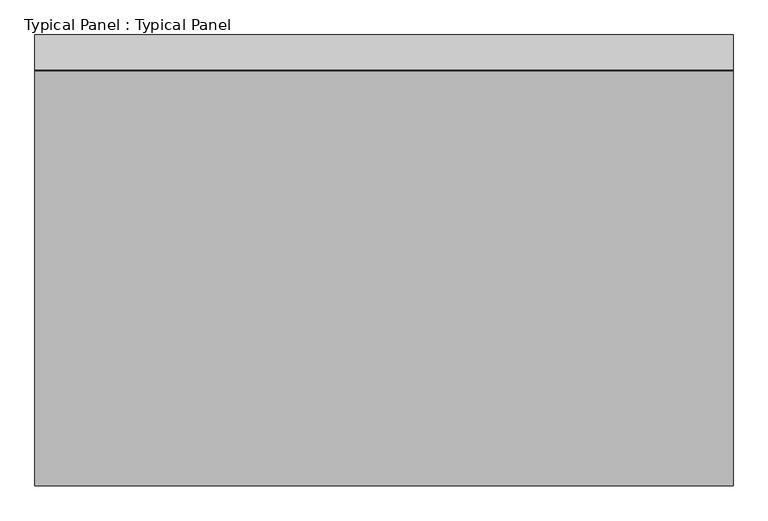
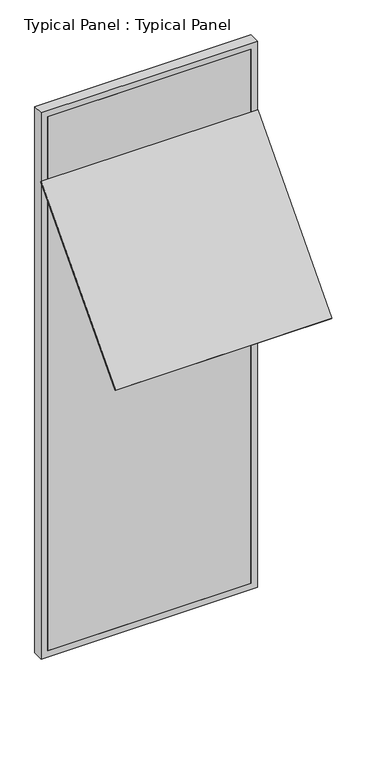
"""IFC4 building model written with IfcOpenShell, lengths in millimetres: plate geometry, Typical Panel : Typical Panel."""

from ifc_helpers import new_model, si_unit, frame, origin, place, context, project, spatial, polyline, outline, extrude, source, transform, mapped, element, save


def typical_panel_typical_panel_41a3be12(model_context):
    return source(origin(), model_context, "Body", "SweptSolid", [
        extrude(outline(polyline([(0.0, -10.0), (0.0, 0.0), (1500.0, 0.0), (1500.0, -10.0), (0.0, -10.0)])), frame((750.0, -894.9437065, 2511.6173821), z_axis=(0.0, 0.6691306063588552, 0.7431448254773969), x_axis=(-1.0, 0.0, 0.0)), (0.0, 0.0, 1.0), 1330.0),
        extrude(outline(polyline([(0.0, -750.0), (0.0, 750.0), (4000.0, 750.0), (4000.0, -750.0), (0.0, -750.0)]), holes=[polyline([(45.0, 705.0), (45.0, -705.0), (3955.0, -705.0), (3955.0, 705.0), (45.0, 705.0)])]), frame((0.0, -1.5797986, 0.0), z_axis=(0.0, 1.0, 0.0), x_axis=(0.0, 0.0, 1.0)), (0.0, 0.0, 1.0), 75.0),
        extrude(outline(polyline([(705.0, -1.5797986), (-705.0, -1.5797986), (-705.0, 13.4202014), (705.0, 13.4202014), (705.0, -1.5797986)])), frame((0.0, 0.0, 45.0), z_axis=(0.0, 0.0, 1.0), x_axis=(1.0, 0.0, 0.0)), (0.0, 0.0, 1.0), 3910.0),
    ])


if __name__ == "__main__":
    model = new_model("IFC4")
    model_context = context("Model", 3, world=origin())
    ifc_project = project(units=[si_unit("LENGTHUNIT", "METRE", prefix="MILLI")], contexts=[model_context])
    site = spatial("IfcSite", under=ifc_project)
    building = spatial("IfcBuilding", under=site)
    placement = place(None, origin())
    typical_panel_typical_panel_shape = typical_panel_typical_panel_41a3be12(model_context)
    element("IfcPlate", 1, ObjectType="Typical Panel : Typical Panel", at=placement, inside=building, context=model_context, shape_type="MappedRepresentation", body=[
        mapped(typical_panel_typical_panel_shape, transform((0.0, 0.0, 0.0), x_axis=(1.0, 0.0, 0.0), y_axis=(0.0, 1.0, 0.0), z_axis=(0.0, 0.0, 1.0))),
    ])
    save(model, "model.ifc")
